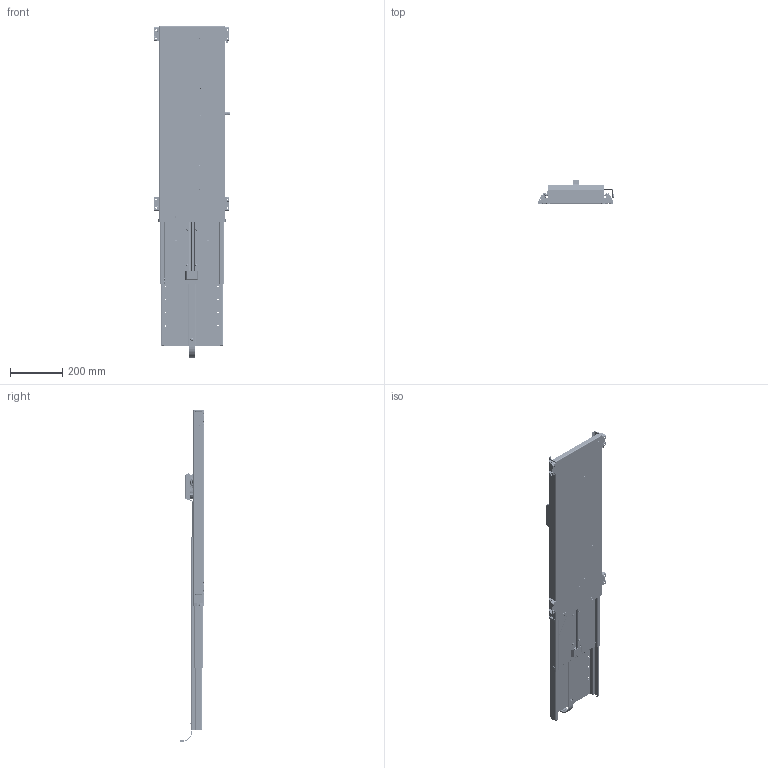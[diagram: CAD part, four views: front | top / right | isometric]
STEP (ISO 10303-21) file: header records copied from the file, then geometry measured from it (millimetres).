
FILE_DESCRIPTION (( 'STEP AP214' ), '1' );
FILE_NAME ('TS1000B.STEP', '2012-02-17T10:19:04', ( 'Jesper Østergaard' ), ( 'ConSet A/S' ), 'SwSTEP 2.0', 'SolidWorks 2003099', '' );
FILE_SCHEMA (( 'AUTOMOTIVE_DESIGN' ));
Length unit declared in the file: millimetre
Products named in the file (90): 320610_Config for assembly; 116500; 322770; 115230; 321140; 321180; 116520; 116510; 323440; 321240; 321250; 314620; 321170; 115250; 321210; 321260; 321200; 321190; 321230; 311580; 321840; 321150; 325430; 323510; 323520; 310970; 315340; 304770; 312080; 305680; 324460; 311250; motor lid; 324910; TS1000B; 114800_mellem +520; 323890; 114770_mellem +520; 323900; 314490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
Assembly tree (161 placements, depth 8):
  TS1000B
    323570
    114800_mellem +520
      311590  x2
      320690  x2
      306980  x2
      326650  x2
      114750
        324890
        600360  x8
        114740
          320140_Included punch
          320180  x4
      311190
      114770_mellem +520
        116090
          322920
          320190  x2
          320840  x2
          322940  x2
          115060_Mellem +500
            320200_Mellem +520
            320810  x2
        300600  x2
        315340
        311250
        324910  x4
        306690  x13
        322980  x2
        305680
        600360  x6
        304770
        323890  x2
        114760
          310990  x2
          323530  x6
          323580
          320150
        motor lid
        324460  x2
        116110
          303810_Armlængde 34mm  x2
          301890_Bend 1
          301890_Bend 2
          324900  x2
        323900  x2
        323510
        310100  x2
        322950  x2
        116570  x2
          323500
          320850
          308730
        312080
        304650
        323520
        310970
        314490
        116490_Config for assy
          321840
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Bounding box: 287 x 94.26 x 1266.74 mm (x, y, z)
Volume: 2366990.8 mm3; surface area: 2519028.3 mm2
Topology: 150 solids, 150 shells, 12665 faces, 32464 edges, 20770 vertices
Faces by surface type: plane 6930, cylinder 3366, bspline 1257, torus 642, cone 340, sphere 130
Entity records: 343049 total; most frequent: CARTESIAN_POINT 132265, ORIENTED_EDGE 44118, DIRECTION 40926, EDGE_CURVE 22059, VERTEX_POINT 14240, LINE 14014, VECTOR 14014, AXIS2_PLACEMENT_3D 13456
